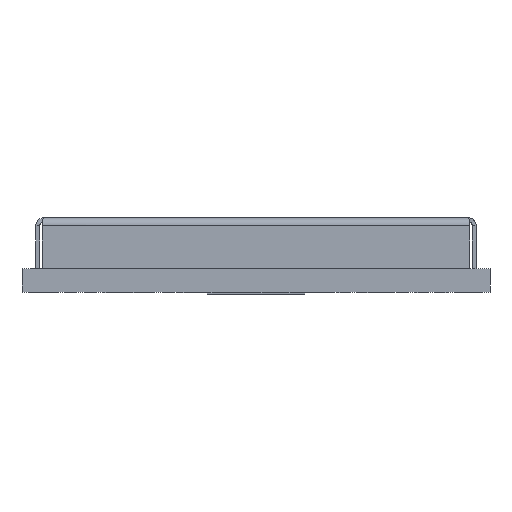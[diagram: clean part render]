
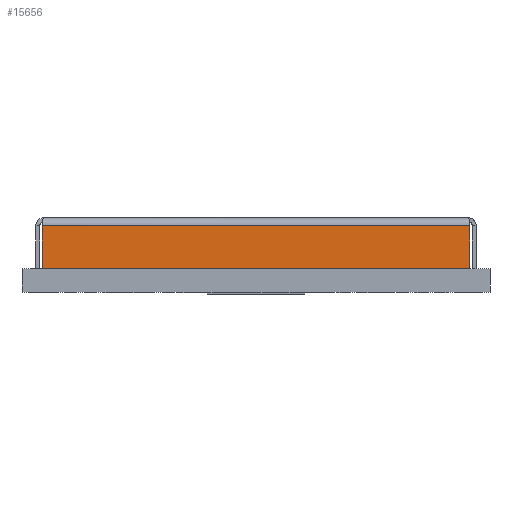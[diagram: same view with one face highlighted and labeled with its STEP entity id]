
A CAD part, front view. The second image highlights one B-rep face of the part: STEP entity #15656.
In plain terms, the highlighted planar face has unit normal (0, -1, 0).
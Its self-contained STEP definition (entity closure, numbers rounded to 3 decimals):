
#6332 = EDGE_CURVE ( 'NONE', #190700, #31339, #66694, .T. ) ;
#8214 = DIRECTION ( 'NONE',  ( 0., 1., 0. ) ) ;
#13717 = DIRECTION ( 'NONE',  ( 1., 0., 0. ) ) ;
#15656 = ADVANCED_FACE ( 'NONE', ( #92370 ), #161694, .F. ) ;
#31339 = VERTEX_POINT ( 'NONE', #214813 ) ;
#36293 = CARTESIAN_POINT ( 'NONE',  ( 11.476, 0.353, 1.1 ) ) ;
#37219 = VECTOR ( 'NONE', #224385, 1000. ) ;
#40075 = CARTESIAN_POINT ( 'NONE',  ( 0.353, 0.353, 1.3 ) ) ;
#47739 = LINE ( 'NONE', #166031, #114491 ) ;
#49989 = ORIENTED_EDGE ( 'NONE', *, *, #87514, .T. ) ;
#55000 = VERTEX_POINT ( 'NONE', #192922 ) ;
#66694 = LINE ( 'NONE', #103051, #110127 ) ;
#77375 = VERTEX_POINT ( 'NONE', #36293 ) ;
#85504 = EDGE_CURVE ( 'NONE', #55000, #77375, #86866, .T. ) ;
#86866 = LINE ( 'NONE', #155155, #37219 ) ;
#87514 = EDGE_CURVE ( 'NONE', #77375, #190700, #47739, .T. ) ;
#92370 = FACE_OUTER_BOUND ( 'NONE', #119549, .T. ) ;
#92953 = CARTESIAN_POINT ( 'NONE',  ( 0.524, 0.353, 1.1 ) ) ;
#103051 = CARTESIAN_POINT ( 'NONE',  ( 0.524, 0.353, 1.3 ) ) ;
#110127 = VECTOR ( 'NONE', #171199, 1000. ) ;
#114491 = VECTOR ( 'NONE', #117063, 1000. ) ;
#117063 = DIRECTION ( 'NONE',  ( -1., 0., 0. ) ) ;
#117210 = EDGE_CURVE ( 'NONE', #31339, #55000, #153497, .T. ) ;
#119549 = EDGE_LOOP ( 'NONE', ( #134967, #49989, #141940, #156478 ) ) ;
#134967 = ORIENTED_EDGE ( 'NONE', *, *, #85504, .T. ) ;
#141940 = ORIENTED_EDGE ( 'NONE', *, *, #6332, .T. ) ;
#146933 = DIRECTION ( 'NONE',  ( -1., 0., 0. ) ) ;
#149032 = AXIS2_PLACEMENT_3D ( 'NONE', #40075, #8214, #146933 ) ;
#153497 = LINE ( 'NONE', #154613, #175796 ) ;
#154613 = CARTESIAN_POINT ( 'NONE',  ( 0.353, 0.353, 0. ) ) ;
#155155 = CARTESIAN_POINT ( 'NONE',  ( 11.476, 0.353, 1.3 ) ) ;
#156478 = ORIENTED_EDGE ( 'NONE', *, *, #117210, .T. ) ;
#161694 = PLANE ( 'NONE',  #149032 ) ;
#166031 = CARTESIAN_POINT ( 'NONE',  ( 0.524, 0.353, 1.1 ) ) ;
#171199 = DIRECTION ( 'NONE',  ( 0., 0., -1. ) ) ;
#175796 = VECTOR ( 'NONE', #13717, 1000. ) ;
#190700 = VERTEX_POINT ( 'NONE', #92953 ) ;
#192922 = CARTESIAN_POINT ( 'NONE',  ( 11.476, 0.353, 0. ) ) ;
#214813 = CARTESIAN_POINT ( 'NONE',  ( 0.524, 0.353, 0. ) ) ;
#224385 = DIRECTION ( 'NONE',  ( 0., 0., 1. ) ) ;
